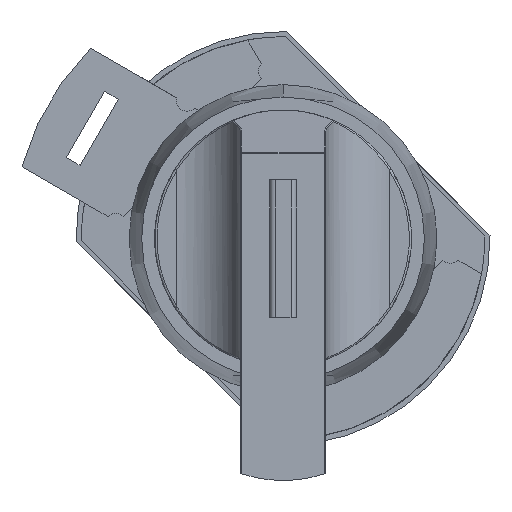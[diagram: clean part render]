
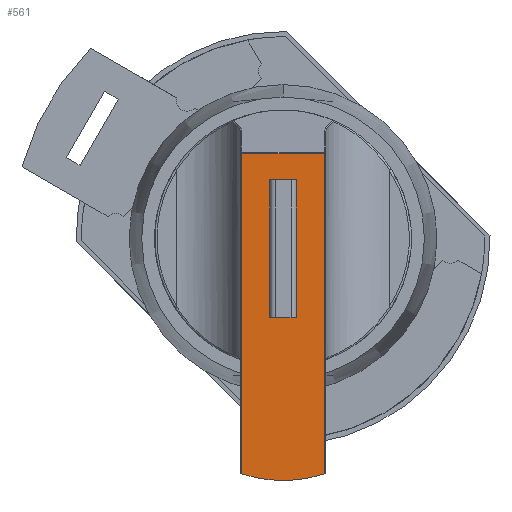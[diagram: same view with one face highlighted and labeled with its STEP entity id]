
A CAD part, left-side view. The second image highlights one B-rep face of the part: STEP entity #561.
In plain terms, the highlighted planar face has unit normal (-1, 0, 0).
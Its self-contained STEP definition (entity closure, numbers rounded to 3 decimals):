
#169 = VERTEX_POINT ( 'NONE', #1851 ) ;
#188 = EDGE_LOOP ( 'NONE', ( #344, #453, #15348, #15174 ) ) ;
#344 = ORIENTED_EDGE ( 'NONE', *, *, #1841, .T. ) ;
#453 = ORIENTED_EDGE ( 'NONE', *, *, #1150, .T. ) ;
#561 = ADVANCED_FACE ( 'NONE', ( #2921, #2925 ), #2926, .T. ) ;
#1150 = EDGE_CURVE ( 'NONE', #2092, #9527, #4418, .T. ) ;
#1305 = EDGE_CURVE ( 'NONE', #169, #3012, #4684, .T. ) ;
#1692 = EDGE_CURVE ( 'NONE', #8554, #1918, #4926, .T. ) ;
#1841 = EDGE_CURVE ( 'NONE', #1918, #2092, #5059, .T. ) ;
#1851 = CARTESIAN_POINT ( 'NONE',  ( -16., -3.9, -22.176 ) ) ;
#1918 = VERTEX_POINT ( 'NONE', #5097 ) ;
#2092 = VERTEX_POINT ( 'NONE', #5243 ) ;
#2921 = FACE_BOUND ( 'NONE', #188, .T. ) ;
#2925 = FACE_OUTER_BOUND ( 'NONE', #15221, .T. ) ;
#2926 = PLANE ( 'NONE',  #2927 ) ;
#2927 = AXIS2_PLACEMENT_3D ( 'NONE', #2928, #2929, #2930 ) ;
#2928 = CARTESIAN_POINT ( 'NONE',  ( -16., 0., 8.1 ) ) ;
#2929 = DIRECTION ( 'NONE',  ( -1., 0., 0. ) ) ;
#2930 = DIRECTION ( 'NONE',  ( 0., 0., 1. ) ) ;
#3012 = VERTEX_POINT ( 'NONE', #5977 ) ;
#3939 = ORIENTED_EDGE ( 'NONE', *, *, #1305, .F. ) ;
#4418 = LINE ( 'NONE', #4424, #4425 ) ;
#4424 = CARTESIAN_POINT ( 'NONE',  ( -16., 1.25, 8.1 ) ) ;
#4425 = VECTOR ( 'NONE', #4426, 1000. ) ;
#4426 = DIRECTION ( 'NONE',  ( 0., 0., 1. ) ) ;
#4644 = ORIENTED_EDGE ( 'NONE', *, *, #4798, .F. ) ;
#4684 = CIRCLE ( 'NONE', #4685, 12.5 ) ;
#4685 = AXIS2_PLACEMENT_3D ( 'NONE', #4686, #4687, #4688 ) ;
#4686 = CARTESIAN_POINT ( 'NONE',  ( -16., 0., -10.3 ) ) ;
#4687 = DIRECTION ( 'NONE',  ( 1., 0., 0. ) ) ;
#4688 = DIRECTION ( 'NONE',  ( 0., 0., -1. ) ) ;
#4798 = EDGE_CURVE ( 'NONE', #6546, #169, #7030, .T. ) ;
#4926 = LINE ( 'NONE', #4927, #4928 ) ;
#4927 = CARTESIAN_POINT ( 'NONE',  ( -16., -1.25, 8.1 ) ) ;
#4928 = VECTOR ( 'NONE', #4929, 1000. ) ;
#4929 = DIRECTION ( 'NONE',  ( 0., 0., -1. ) ) ;
#5059 = LINE ( 'NONE', #5060, #5061 ) ;
#5060 = CARTESIAN_POINT ( 'NONE',  ( -16., 0., -7.472 ) ) ;
#5061 = VECTOR ( 'NONE', #5062, 1000. ) ;
#5062 = DIRECTION ( 'NONE',  ( 0., 1., 0. ) ) ;
#5097 = CARTESIAN_POINT ( 'NONE',  ( -16., -1.25, -7.472 ) ) ;
#5243 = CARTESIAN_POINT ( 'NONE',  ( -16., 1.25, -7.472 ) ) ;
#5977 = CARTESIAN_POINT ( 'NONE',  ( -16., 0., -22.8 ) ) ;
#6546 = VERTEX_POINT ( 'NONE', #7956 ) ;
#7030 = LINE ( 'NONE', #7031, #7032 ) ;
#7031 = CARTESIAN_POINT ( 'NONE',  ( -16., -3.9, 0.484 ) ) ;
#7032 = VECTOR ( 'NONE', #7033, 1000. ) ;
#7033 = DIRECTION ( 'NONE',  ( 0., 0., -1. ) ) ;
#7956 = CARTESIAN_POINT ( 'NONE',  ( -16., -3.9, 8.028 ) ) ;
#8554 = VERTEX_POINT ( 'NONE', #9476 ) ;
#9359 = EDGE_CURVE ( 'NONE', #9527, #8554, #9880, .T. ) ;
#9476 = CARTESIAN_POINT ( 'NONE',  ( -16., -1.25, 5.528 ) ) ;
#9527 = VERTEX_POINT ( 'NONE', #9946 ) ;
#9880 = LINE ( 'NONE', #9881, #9882 ) ;
#9881 = CARTESIAN_POINT ( 'NONE',  ( -16., 0., 5.528 ) ) ;
#9882 = VECTOR ( 'NONE', #9883, 1000. ) ;
#9883 = DIRECTION ( 'NONE',  ( 0., -1., 0. ) ) ;
#9946 = CARTESIAN_POINT ( 'NONE',  ( -16., 1.25, 5.528 ) ) ;
#12678 = CARTESIAN_POINT ( 'NONE',  ( -16., 3.9, -22.176 ) ) ;
#13089 = CARTESIAN_POINT ( 'NONE',  ( -16., 3.9, 8.028 ) ) ;
#13230 = CIRCLE ( 'NONE', #13231, 12.5 ) ;
#13231 = AXIS2_PLACEMENT_3D ( 'NONE', #13232, #13233, #13234 ) ;
#13232 = CARTESIAN_POINT ( 'NONE',  ( -16., 0., -10.3 ) ) ;
#13233 = DIRECTION ( 'NONE',  ( 1., 0., 0. ) ) ;
#13234 = DIRECTION ( 'NONE',  ( 0., 0., -1. ) ) ;
#13583 = LINE ( 'NONE', #13584, #13585 ) ;
#13584 = CARTESIAN_POINT ( 'NONE',  ( -16., 3.9, 0.484 ) ) ;
#13585 = VECTOR ( 'NONE', #13586, 1000. ) ;
#13586 = DIRECTION ( 'NONE',  ( 0., 0., 1. ) ) ;
#14250 = LINE ( 'NONE', #14251, #14252 ) ;
#14251 = CARTESIAN_POINT ( 'NONE',  ( -16., 0., 8.028 ) ) ;
#14252 = VECTOR ( 'NONE', #14253, 1000. ) ;
#14253 = DIRECTION ( 'NONE',  ( 0., -1., 0. ) ) ;
#14564 = VERTEX_POINT ( 'NONE', #12678 ) ;
#14880 = ORIENTED_EDGE ( 'NONE', *, *, #14986, .F. ) ;
#14902 = VERTEX_POINT ( 'NONE', #13089 ) ;
#14986 = EDGE_CURVE ( 'NONE', #3012, #14564, #13230, .T. ) ;
#15050 = ORIENTED_EDGE ( 'NONE', *, *, #15157, .F. ) ;
#15157 = EDGE_CURVE ( 'NONE', #14564, #14902, #13583, .T. ) ;
#15174 = ORIENTED_EDGE ( 'NONE', *, *, #1692, .T. ) ;
#15221 = EDGE_LOOP ( 'NONE', ( #15357, #15050, #14880, #3939, #4644 ) ) ;
#15348 = ORIENTED_EDGE ( 'NONE', *, *, #9359, .T. ) ;
#15357 = ORIENTED_EDGE ( 'NONE', *, *, #15448, .F. ) ;
#15448 = EDGE_CURVE ( 'NONE', #14902, #6546, #14250, .T. ) ;
